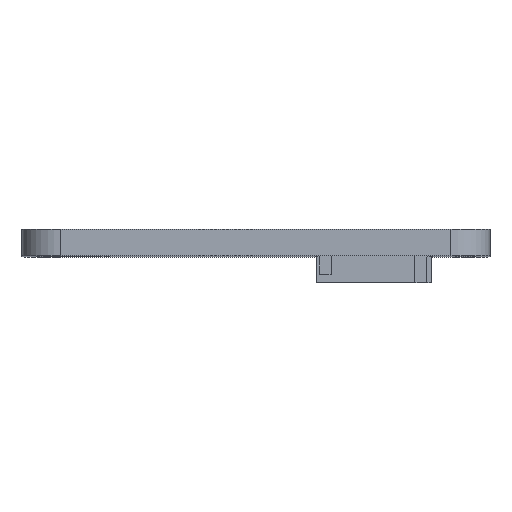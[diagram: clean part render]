
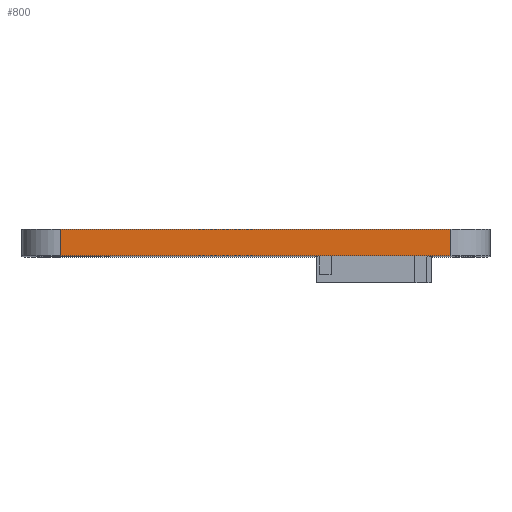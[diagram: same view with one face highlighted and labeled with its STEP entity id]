
A CAD part, top view. The second image highlights one B-rep face of the part: STEP entity #800.
In plain terms, the highlighted planar face has unit normal (0, 0, 1).
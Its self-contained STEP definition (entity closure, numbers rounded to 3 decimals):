
#161 = VERTEX_POINT('',#162);
#162 = CARTESIAN_POINT('',(20.,30.25,75.));
#169 = EDGE_CURVE('',#170,#161,#172,.T.);
#170 = VERTEX_POINT('',#171);
#171 = CARTESIAN_POINT('',(-20.,30.25,75.));
#172 = LINE('',#173,#174);
#173 = CARTESIAN_POINT('',(-20.,30.25,75.));
#174 = VECTOR('',#175,1.);
#175 = DIRECTION('',(1.,0.,0.));
#756 = VERTEX_POINT('',#757);
#757 = CARTESIAN_POINT('',(-20.,33.,75.));
#766 = EDGE_CURVE('',#170,#756,#767,.T.);
#767 = LINE('',#768,#769);
#768 = CARTESIAN_POINT('',(-20.,30.25,75.));
#769 = VECTOR('',#770,1.);
#770 = DIRECTION('',(0.,1.,0.));
#800 = ADVANCED_FACE('',(#801),#819,.T.);
#801 = FACE_BOUND('',#802,.T.);
#802 = EDGE_LOOP('',(#803,#804,#805,#813));
#803 = ORIENTED_EDGE('',*,*,#766,.F.);
#804 = ORIENTED_EDGE('',*,*,#169,.T.);
#805 = ORIENTED_EDGE('',*,*,#806,.T.);
#806 = EDGE_CURVE('',#161,#807,#809,.T.);
#807 = VERTEX_POINT('',#808);
#808 = CARTESIAN_POINT('',(20.,33.,75.));
#809 = LINE('',#810,#811);
#810 = CARTESIAN_POINT('',(20.,30.25,75.));
#811 = VECTOR('',#812,1.);
#812 = DIRECTION('',(0.,1.,0.));
#813 = ORIENTED_EDGE('',*,*,#814,.F.);
#814 = EDGE_CURVE('',#756,#807,#815,.T.);
#815 = LINE('',#816,#817);
#816 = CARTESIAN_POINT('',(-20.,33.,75.));
#817 = VECTOR('',#818,1.);
#818 = DIRECTION('',(1.,0.,0.));
#819 = PLANE('',#820);
#820 = AXIS2_PLACEMENT_3D('',#821,#822,#823);
#821 = CARTESIAN_POINT('',(-20.,30.25,75.));
#822 = DIRECTION('',(0.,0.,1.));
#823 = DIRECTION('',(1.,0.,0.));
